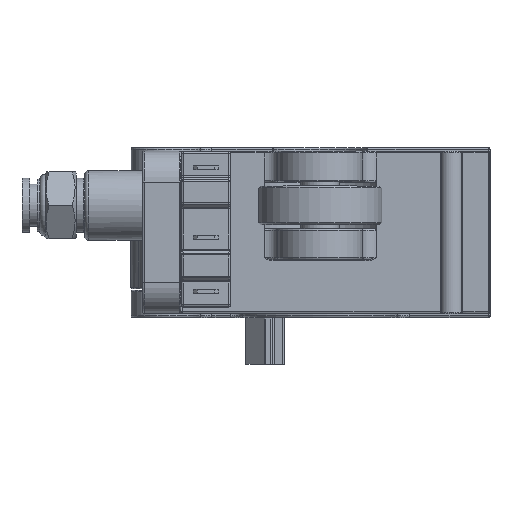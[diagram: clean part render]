
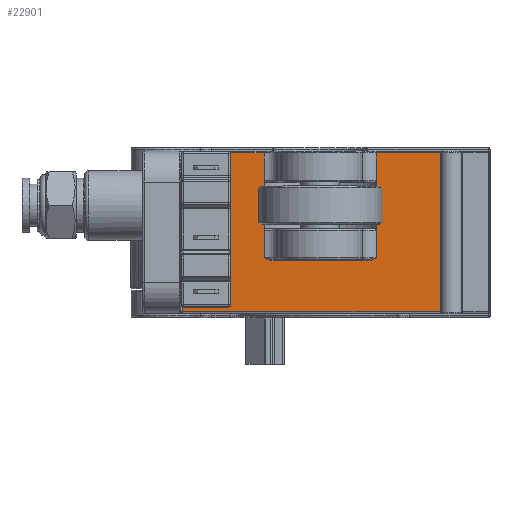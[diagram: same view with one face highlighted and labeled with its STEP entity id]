
A CAD part, top view. The second image highlights one B-rep face of the part: STEP entity #22901.
In plain terms, the highlighted planar face has unit normal (0, 0, 1).
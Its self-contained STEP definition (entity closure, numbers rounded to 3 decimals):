
#991=FACE_BOUND('',#5170,.T.);
#1870=CIRCLE('',#25181,2.2);
#1871=CIRCLE('',#25182,2.2);
#3712=FACE_OUTER_BOUND('',#5169,.T.);
#5169=EDGE_LOOP('',(#20604,#20605,#20606,#20607,#20608,#20609,#20610,#20611,
#20612,#20613,#20614,#20615,#20616,#20617,#20618,#20619,#20620,#20621));
#5170=EDGE_LOOP('',(#20622,#20623,#20624,#20625,#20626,#20627,#20628,#20629));
#5942=B_SPLINE_CURVE_WITH_KNOTS('',3,(#69501,#69502,#69503,#69504,#69505,
#69506),.UNSPECIFIED.,.F.,.F.,(4,2,4),(-0.126,0.,0.001),
 .UNSPECIFIED.);
#5943=B_SPLINE_CURVE_WITH_KNOTS('',3,(#69510,#69511,#69512,#69513,#69514,
#69515),.UNSPECIFIED.,.F.,.F.,(4,2,4),(-0.126,-0.126,
0.),.UNSPECIFIED.);
#7303=LINE('',#69379,#8778);
#7305=LINE('',#69485,#8780);
#7306=LINE('',#69489,#8781);
#7307=LINE('',#69491,#8782);
#7308=LINE('',#69493,#8783);
#7309=LINE('',#69495,#8784);
#7310=LINE('',#69497,#8785);
#7311=LINE('',#69499,#8786);
#7312=LINE('',#69508,#8787);
#7313=LINE('',#69517,#8788);
#7314=LINE('',#69519,#8789);
#7315=LINE('',#69521,#8790);
#7316=LINE('',#69523,#8791);
#7317=LINE('',#69525,#8792);
#7318=LINE('',#69527,#8793);
#7319=LINE('',#69528,#8794);
#7320=LINE('',#69531,#8795);
#7321=LINE('',#69533,#8796);
#7322=LINE('',#69535,#8797);
#7323=LINE('',#69539,#8798);
#7324=LINE('',#69541,#8799);
#7325=LINE('',#69543,#8800);
#8778=VECTOR('',#30789,10.);
#8780=VECTOR('',#30803,10.);
#8781=VECTOR('',#30808,10.);
#8782=VECTOR('',#30809,10.);
#8783=VECTOR('',#30810,10.);
#8784=VECTOR('',#30811,10.);
#8785=VECTOR('',#30812,10.);
#8786=VECTOR('',#30813,10.);
#8787=VECTOR('',#30814,10.);
#8788=VECTOR('',#30815,10.);
#8789=VECTOR('',#30816,10.);
#8790=VECTOR('',#30817,10.);
#8791=VECTOR('',#30818,10.);
#8792=VECTOR('',#30819,10.);
#8793=VECTOR('',#30820,10.);
#8794=VECTOR('',#30821,10.);
#8795=VECTOR('',#30822,10.);
#8796=VECTOR('',#30823,10.);
#8797=VECTOR('',#30824,10.);
#8798=VECTOR('',#30827,10.);
#8799=VECTOR('',#30828,10.);
#8800=VECTOR('',#30829,10.);
#10881=VERTEX_POINT('',#69368);
#10882=VERTEX_POINT('',#69377);
#10884=VERTEX_POINT('',#69484);
#10885=VERTEX_POINT('',#69488);
#10886=VERTEX_POINT('',#69490);
#10887=VERTEX_POINT('',#69492);
#10888=VERTEX_POINT('',#69494);
#10889=VERTEX_POINT('',#69496);
#10890=VERTEX_POINT('',#69498);
#10891=VERTEX_POINT('',#69500);
#10892=VERTEX_POINT('',#69507);
#10893=VERTEX_POINT('',#69509);
#10894=VERTEX_POINT('',#69516);
#10895=VERTEX_POINT('',#69518);
#10896=VERTEX_POINT('',#69520);
#10897=VERTEX_POINT('',#69522);
#10898=VERTEX_POINT('',#69524);
#10899=VERTEX_POINT('',#69526);
#10900=VERTEX_POINT('',#69529);
#10901=VERTEX_POINT('',#69530);
#10902=VERTEX_POINT('',#69532);
#10903=VERTEX_POINT('',#69534);
#10904=VERTEX_POINT('',#69536);
#10905=VERTEX_POINT('',#69538);
#10906=VERTEX_POINT('',#69540);
#10907=VERTEX_POINT('',#69542);
#14146=EDGE_CURVE('',#10881,#10882,#7303,.T.);
#14153=EDGE_CURVE('',#10882,#10884,#7305,.T.);
#14155=EDGE_CURVE('',#10885,#10881,#7306,.T.);
#14156=EDGE_CURVE('',#10886,#10885,#7307,.T.);
#14157=EDGE_CURVE('',#10887,#10886,#7308,.T.);
#14158=EDGE_CURVE('',#10888,#10887,#7309,.T.);
#14159=EDGE_CURVE('',#10889,#10888,#7310,.T.);
#14160=EDGE_CURVE('',#10890,#10889,#7311,.T.);
#14161=EDGE_CURVE('',#10891,#10890,#5942,.T.);
#14162=EDGE_CURVE('',#10892,#10891,#7312,.T.);
#14163=EDGE_CURVE('',#10893,#10892,#5943,.T.);
#14164=EDGE_CURVE('',#10894,#10893,#7313,.T.);
#14165=EDGE_CURVE('',#10895,#10894,#7314,.T.);
#14166=EDGE_CURVE('',#10896,#10895,#7315,.T.);
#14167=EDGE_CURVE('',#10897,#10896,#7316,.T.);
#14168=EDGE_CURVE('',#10898,#10897,#7317,.T.);
#14169=EDGE_CURVE('',#10899,#10898,#7318,.T.);
#14170=EDGE_CURVE('',#10884,#10899,#7319,.T.);
#14171=EDGE_CURVE('',#10900,#10901,#7320,.T.);
#14172=EDGE_CURVE('',#10901,#10902,#7321,.T.);
#14173=EDGE_CURVE('',#10902,#10903,#7322,.T.);
#14174=EDGE_CURVE('',#10903,#10904,#1870,.T.);
#14175=EDGE_CURVE('',#10904,#10905,#7323,.T.);
#14176=EDGE_CURVE('',#10905,#10906,#7324,.T.);
#14177=EDGE_CURVE('',#10906,#10907,#7325,.T.);
#14178=EDGE_CURVE('',#10907,#10900,#1871,.T.);
#20604=ORIENTED_EDGE('',*,*,#14146,.F.);
#20605=ORIENTED_EDGE('',*,*,#14155,.F.);
#20606=ORIENTED_EDGE('',*,*,#14156,.F.);
#20607=ORIENTED_EDGE('',*,*,#14157,.F.);
#20608=ORIENTED_EDGE('',*,*,#14158,.F.);
#20609=ORIENTED_EDGE('',*,*,#14159,.F.);
#20610=ORIENTED_EDGE('',*,*,#14160,.F.);
#20611=ORIENTED_EDGE('',*,*,#14161,.F.);
#20612=ORIENTED_EDGE('',*,*,#14162,.F.);
#20613=ORIENTED_EDGE('',*,*,#14163,.F.);
#20614=ORIENTED_EDGE('',*,*,#14164,.F.);
#20615=ORIENTED_EDGE('',*,*,#14165,.F.);
#20616=ORIENTED_EDGE('',*,*,#14166,.F.);
#20617=ORIENTED_EDGE('',*,*,#14167,.F.);
#20618=ORIENTED_EDGE('',*,*,#14168,.F.);
#20619=ORIENTED_EDGE('',*,*,#14169,.F.);
#20620=ORIENTED_EDGE('',*,*,#14170,.F.);
#20621=ORIENTED_EDGE('',*,*,#14153,.F.);
#20622=ORIENTED_EDGE('',*,*,#14171,.T.);
#20623=ORIENTED_EDGE('',*,*,#14172,.T.);
#20624=ORIENTED_EDGE('',*,*,#14173,.T.);
#20625=ORIENTED_EDGE('',*,*,#14174,.T.);
#20626=ORIENTED_EDGE('',*,*,#14175,.T.);
#20627=ORIENTED_EDGE('',*,*,#14176,.T.);
#20628=ORIENTED_EDGE('',*,*,#14177,.T.);
#20629=ORIENTED_EDGE('',*,*,#14178,.T.);
#21642=PLANE('',#25180);
#22901=ADVANCED_FACE('',(#3712,#991),#21642,.T.);
#25180=AXIS2_PLACEMENT_3D('',#69487,#30806,#30807);
#25181=AXIS2_PLACEMENT_3D('',#69537,#30825,#30826);
#25182=AXIS2_PLACEMENT_3D('',#69544,#30830,#30831);
#30789=DIRECTION('',(0.,-1.,0.));
#30803=DIRECTION('',(-1.,0.,0.));
#30806=DIRECTION('center_axis',(0.,0.,1.));
#30807=DIRECTION('ref_axis',(-1.,0.,0.));
#30808=DIRECTION('',(1.,0.,0.));
#30809=DIRECTION('',(0.,1.,0.));
#30810=DIRECTION('',(-1.,0.,0.));
#30811=DIRECTION('',(0.,1.,0.));
#30812=DIRECTION('',(1.,0.,0.));
#30813=DIRECTION('',(0.,1.,0.));
#30814=DIRECTION('',(1.,0.,0.));
#30815=DIRECTION('',(0.,-1.,0.));
#30816=DIRECTION('',(1.,0.,0.));
#30817=DIRECTION('',(0.,-1.,0.));
#30818=DIRECTION('',(-1.,0.,0.));
#30819=DIRECTION('',(0.,-1.,0.));
#30820=DIRECTION('',(1.,0.,0.));
#30821=DIRECTION('',(0.,1.,0.));
#30822=DIRECTION('',(1.,0.,0.));
#30823=DIRECTION('',(0.,-1.,0.));
#30824=DIRECTION('',(-1.,0.,0.));
#30825=DIRECTION('center_axis',(0.,0.,-1.));
#30826=DIRECTION('ref_axis',(-0.729,-0.684,0.));
#30827=DIRECTION('',(-1.,0.,0.));
#30828=DIRECTION('',(0.,1.,0.));
#30829=DIRECTION('',(1.,0.,0.));
#30830=DIRECTION('center_axis',(0.,0.,-1.));
#30831=DIRECTION('ref_axis',(0.734,0.679,0.));
#69368=CARTESIAN_POINT('',(-160.445,210.879,-0.592));
#69377=CARTESIAN_POINT('',(-160.445,190.279,-0.592));
#69379=CARTESIAN_POINT('',(-160.445,190.079,-0.592));
#69484=CARTESIAN_POINT('',(-193.828,190.279,-0.592));
#69485=CARTESIAN_POINT('',(-182.203,190.279,-0.592));
#69487=CARTESIAN_POINT('Origin',(-188.675,200.579,-0.592));
#69488=CARTESIAN_POINT('',(-168.743,210.879,-0.592));
#69489=CARTESIAN_POINT('',(-195.088,210.879,-0.592));
#69490=CARTESIAN_POINT('',(-168.743,207.3,-0.592));
#69491=CARTESIAN_POINT('',(-168.743,203.84,-0.592));
#69492=CARTESIAN_POINT('',(-168.743,207.3,-0.592));
#69493=CARTESIAN_POINT('',(-182.338,207.3,-0.592));
#69494=CARTESIAN_POINT('',(-168.743,200.87,-0.592));
#69495=CARTESIAN_POINT('',(-168.743,211.079,-0.592));
#69496=CARTESIAN_POINT('',(-168.743,200.87,-0.592));
#69497=CARTESIAN_POINT('',(-195.088,200.87,-0.592));
#69498=CARTESIAN_POINT('',(-168.743,197.278,-0.592));
#69499=CARTESIAN_POINT('',(-168.743,198.828,-0.592));
#69500=CARTESIAN_POINT('',(-169.93,196.878,-0.592));
#69501=CARTESIAN_POINT('Ctrl Pts',(-169.93,196.878,-0.592));
#69502=CARTESIAN_POINT('Ctrl Pts',(-169.511,196.878,-0.592));
#69503=CARTESIAN_POINT('Ctrl Pts',(-169.12,197.088,-0.592));
#69504=CARTESIAN_POINT('Ctrl Pts',(-168.746,197.276,-0.592));
#69505=CARTESIAN_POINT('Ctrl Pts',(-168.745,197.277,-0.592));
#69506=CARTESIAN_POINT('Ctrl Pts',(-168.743,197.278,-0.592));
#69507=CARTESIAN_POINT('',(-182.078,196.878,-0.592));
#69508=CARTESIAN_POINT('',(-181.43,196.878,-0.592));
#69509=CARTESIAN_POINT('',(-183.265,197.278,-0.592));
#69510=CARTESIAN_POINT('Ctrl Pts',(-183.265,197.278,-0.592));
#69511=CARTESIAN_POINT('Ctrl Pts',(-183.263,197.277,-0.592));
#69512=CARTESIAN_POINT('Ctrl Pts',(-183.262,197.276,-0.592));
#69513=CARTESIAN_POINT('Ctrl Pts',(-182.889,197.089,-0.592));
#69514=CARTESIAN_POINT('Ctrl Pts',(-182.497,196.878,-0.592));
#69515=CARTESIAN_POINT('Ctrl Pts',(-182.078,196.878,-0.592));
#69516=CARTESIAN_POINT('',(-183.265,200.87,-0.592));
#69517=CARTESIAN_POINT('',(-183.265,198.828,-0.592));
#69518=CARTESIAN_POINT('',(-183.266,200.87,-0.592));
#69519=CARTESIAN_POINT('',(-195.088,200.87,-0.592));
#69520=CARTESIAN_POINT('',(-183.266,207.3,-0.592));
#69521=CARTESIAN_POINT('',(-183.266,211.079,-0.592));
#69522=CARTESIAN_POINT('',(-183.265,207.3,-0.592));
#69523=CARTESIAN_POINT('',(-182.338,207.3,-0.592));
#69524=CARTESIAN_POINT('',(-183.265,210.879,-0.592));
#69525=CARTESIAN_POINT('',(-183.265,203.84,-0.592));
#69526=CARTESIAN_POINT('',(-193.828,210.879,-0.592));
#69527=CARTESIAN_POINT('',(-195.088,210.879,-0.592));
#69528=CARTESIAN_POINT('',(-193.828,200.579,-0.592));
#69529=CARTESIAN_POINT('',(-189.189,205.578,-0.592));
#69530=CARTESIAN_POINT('',(-188.302,205.578,-0.592));
#69531=CARTESIAN_POINT('',(-189.189,205.578,-0.592));
#69532=CARTESIAN_POINT('',(-188.302,202.578,-0.592));
#69533=CARTESIAN_POINT('',(-188.302,205.578,-0.592));
#69534=CARTESIAN_POINT('',(-189.199,202.578,-0.592));
#69535=CARTESIAN_POINT('',(-188.302,202.578,-0.592));
#69536=CARTESIAN_POINT('',(-192.407,202.578,-0.592));
#69537=CARTESIAN_POINT('Origin',(-190.803,204.083,-0.592));
#69538=CARTESIAN_POINT('',(-193.302,202.578,-0.592));
#69539=CARTESIAN_POINT('',(-192.407,202.578,-0.592));
#69540=CARTESIAN_POINT('',(-193.303,205.578,-0.592));
#69541=CARTESIAN_POINT('',(-193.302,202.578,-0.592));
#69542=CARTESIAN_POINT('',(-192.417,205.578,-0.592));
#69543=CARTESIAN_POINT('',(-193.303,205.578,-0.592));
#69544=CARTESIAN_POINT('Origin',(-190.803,204.083,-0.592));
